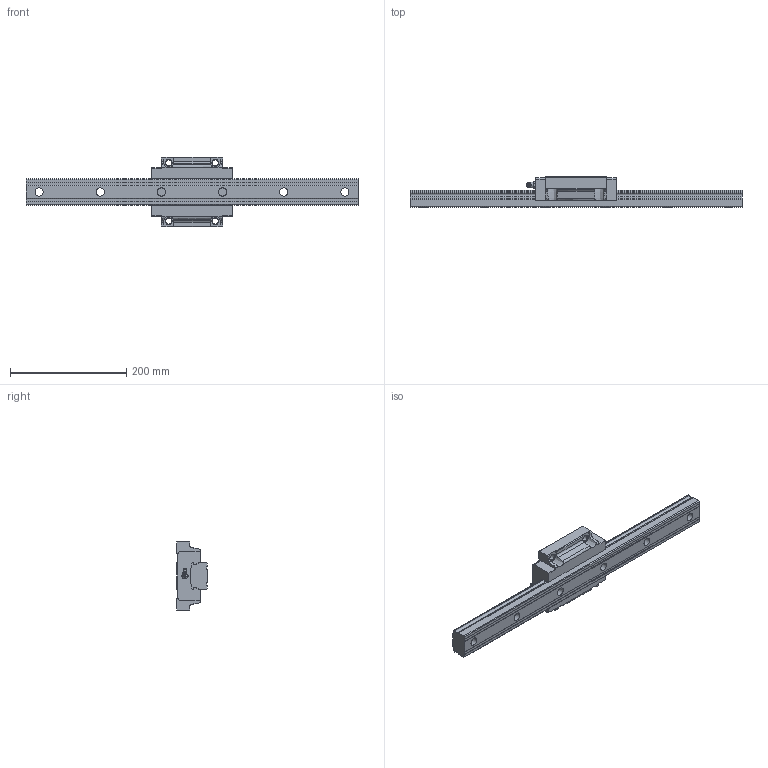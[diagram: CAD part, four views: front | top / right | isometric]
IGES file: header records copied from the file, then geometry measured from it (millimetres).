
Start section: Data from Parasolid IGES Translator 26.0.171, Copyright(c) 2006 Siemens PLM Software. All Rights Reserved.
Global section: file name: SVR45C1SS-570L_G22-5_0_B-PT18_215-9_0_0_0_1.igs; native system: By Siemens PLM Incorporated; preprocessor: XPlus GENERIC/IGES 26.0.171; author: Noname; organization: Noname; date: 20240517.072259; units: inch
Bounding box: 570 x 52 x 120 mm (x, y, z)
Surface area: 153241.1 mm2 (no closed solid volume)
Topology: 0 solids, 0 shells, 230 faces, 1249 edges, 1215 vertices
Faces by surface type: extrusion 125, revolution 105
